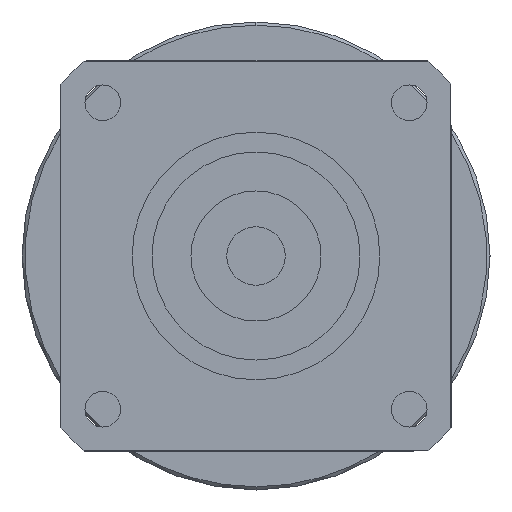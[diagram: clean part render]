
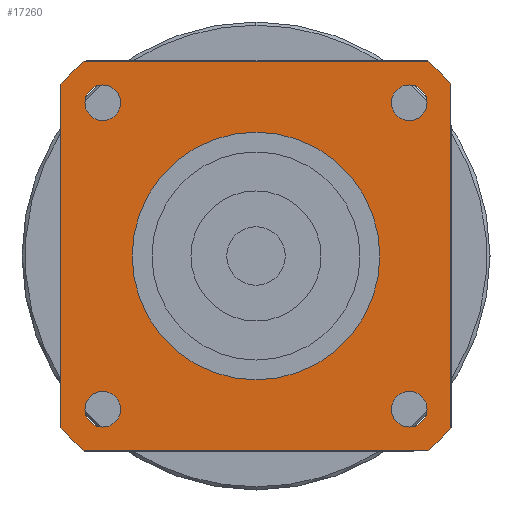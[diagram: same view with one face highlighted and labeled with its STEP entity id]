
A CAD part, left-side view. The second image highlights one B-rep face of the part: STEP entity #17260.
In plain terms, the highlighted planar face has unit normal (-1, 0, 0) as drawn and (0, 0, -1) by its records, which use the part's own axes.
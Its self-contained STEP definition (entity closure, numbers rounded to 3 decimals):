
#12210=CARTESIAN_POINT('',(-26.458,-30.,-91.));
#12220=VERTEX_POINT('',#12210);
#12450=CARTESIAN_POINT('',(26.458,-30.,-91.));
#12460=VERTEX_POINT('',#12450);
#12490=CARTESIAN_POINT('',(-30.,-30.,-91.));
#12500=DIRECTION('',(1.,0.,0.));
#12510=VECTOR('',#12500,1000.);
#12520=LINE('',#12490,#12510);
#12530=EDGE_CURVE('',#12220,#12460,#12520,.T.);
#12690=CARTESIAN_POINT('',(26.458,30.,-91.));
#12700=VERTEX_POINT('',#12690);
#12730=CARTESIAN_POINT('',(0.,0.,
-91.));
#12740=DIRECTION('',(0.,0.,1.));
#12750=DIRECTION('',(0.,-1.,0.));
#12760=AXIS2_PLACEMENT_3D('',#12730,#12740,#12750);
#12770=CIRCLE('',#12760,40.);
#12780=CARTESIAN_POINT('',(30.,26.458,-91.));
#12790=VERTEX_POINT('',#12780);
#12800=EDGE_CURVE('',#12790,#12700,#12770,.T.);
#15380=CARTESIAN_POINT('',(30.,-26.458,-91.));
#15390=VERTEX_POINT('',#15380);
#15420=CARTESIAN_POINT('',(0.,0.,
-91.));
#15430=DIRECTION('',(0.,0.,1.));
#15440=DIRECTION('',(0.,-1.,0.));
#15450=AXIS2_PLACEMENT_3D('',#15420,#15430,#15440);
#15460=CIRCLE('',#15450,40.);
#15470=EDGE_CURVE('',#12460,#15390,#15460,.T.);
#15610=CARTESIAN_POINT('',(20.821,23.571,-91.));
#15620=VERTEX_POINT('',#15610);
#15780=CARTESIAN_POINT('',(26.321,23.571,-91.));
#15790=VERTEX_POINT('',#15780);
#15820=CARTESIAN_POINT('',(23.571,23.571,-91.));
#15830=DIRECTION('',(0.,0.,-1.));
#15840=DIRECTION('',(0.,1.,0.));
#15850=AXIS2_PLACEMENT_3D('',#15820,#15830,#15840);
#15860=CIRCLE('',#15850,2.75);
#15870=CARTESIAN_POINT('',(23.571,26.321,-91.));
#15880=VERTEX_POINT('',#15870);
#15890=EDGE_CURVE('',#15880,#15790,#15860,.T.);
#15910=EDGE_CURVE('',#15620,#15880,#15860,.T.);
#15960=CARTESIAN_POINT('',(-30.,30.,-91.));
#15970=DIRECTION('',(0.,0.,1.));
#15980=DIRECTION('',(-1.,0.,0.));
#15990=AXIS2_PLACEMENT_3D('',#15960,#15970,#15980);
#16000=PLANE('',#15990);
#16010=CARTESIAN_POINT('',(23.571,-23.571,-91.));
#16020=DIRECTION('',(0.,0.,-1.));
#16030=DIRECTION('',(1.,0.,0.));
#16040=AXIS2_PLACEMENT_3D('',#16010,#16020,#16030);
#16050=CIRCLE('',#16040,2.75);
#16060=CARTESIAN_POINT('',(26.321,-23.571,-91.));
#16070=VERTEX_POINT('',#16060);
#16080=CARTESIAN_POINT('',(23.571,-26.321,-91.));
#16090=VERTEX_POINT('',#16080);
#16100=EDGE_CURVE('',#16070,#16090,#16050,.T.);
#16110=ORIENTED_EDGE('',*,*,#16100,.F.);
#16120=CARTESIAN_POINT('',(23.571,-20.821,-91.));
#16130=VERTEX_POINT('',#16120);
#16140=EDGE_CURVE('',#16090,#16130,#16050,.T.);
#16150=ORIENTED_EDGE('',*,*,#16140,.F.);
#16160=EDGE_CURVE('',#16130,#16070,#16050,.T.);
#16170=ORIENTED_EDGE('',*,*,#16160,.F.);
#16180=EDGE_LOOP('',(#16170,#16150,#16110));
#16190=FACE_BOUND('',#16180,.T.);
#16200=ORIENTED_EDGE('',*,*,#15890,.F.);
#16210=EDGE_CURVE('',#15790,#15620,#15860,.T.);
#16220=ORIENTED_EDGE('',*,*,#16210,.F.);
#16230=ORIENTED_EDGE('',*,*,#15910,.F.);
#16240=EDGE_LOOP('',(#16230,#16220,#16200));
#16250=FACE_BOUND('',#16240,.T.);
#16260=CARTESIAN_POINT('',(-23.571,23.571,-91.));
#16270=DIRECTION('',(0.,0.,-1.));
#16280=DIRECTION('',(-1.,0.,0.));
#16290=AXIS2_PLACEMENT_3D('',#16260,#16270,#16280);
#16300=CIRCLE('',#16290,2.75);
#16310=CARTESIAN_POINT('',(-26.321,23.571,-91.));
#16320=VERTEX_POINT('',#16310);
#16330=CARTESIAN_POINT('',(-23.571,26.321,-91.));
#16340=VERTEX_POINT('',#16330);
#16350=EDGE_CURVE('',#16320,#16340,#16300,.T.);
#16360=ORIENTED_EDGE('',*,*,#16350,.F.);
#16370=CARTESIAN_POINT('',(-23.571,20.821,-91.));
#16380=VERTEX_POINT('',#16370);
#16390=EDGE_CURVE('',#16340,#16380,#16300,.T.);
#16400=ORIENTED_EDGE('',*,*,#16390,.F.);
#16410=EDGE_CURVE('',#16380,#16320,#16300,.T.);
#16420=ORIENTED_EDGE('',*,*,#16410,.F.);
#16430=EDGE_LOOP('',(#16420,#16400,#16360));
#16440=FACE_BOUND('',#16430,.T.);
#16450=CARTESIAN_POINT('',(-23.571,-23.571,-91.));
#16460=DIRECTION('',(0.,0.,-1.));
#16470=DIRECTION('',(0.,-1.,0.));
#16480=AXIS2_PLACEMENT_3D('',#16450,#16460,#16470);
#16490=CIRCLE('',#16480,2.75);
#16500=CARTESIAN_POINT('',(-23.571,-26.321,-91.));
#16510=VERTEX_POINT('',#16500);
#16520=CARTESIAN_POINT('',(-26.321,-23.571,-91.));
#16530=VERTEX_POINT('',#16520);
#16540=EDGE_CURVE('',#16510,#16530,#16490,.T.);
#16550=ORIENTED_EDGE('',*,*,#16540,.F.);
#16560=CARTESIAN_POINT('',(-20.821,-23.571,-91.));
#16570=VERTEX_POINT('',#16560);
#16580=EDGE_CURVE('',#16530,#16570,#16490,.T.);
#16590=ORIENTED_EDGE('',*,*,#16580,.F.);
#16600=EDGE_CURVE('',#16570,#16510,#16490,.T.);
#16610=ORIENTED_EDGE('',*,*,#16600,.F.);
#16620=EDGE_LOOP('',(#16610,#16590,#16550));
#16630=FACE_BOUND('',#16620,.T.);
#16640=CARTESIAN_POINT('',(0.,0.,
-91.));
#16650=DIRECTION('',(0.,0.,1.));
#16660=DIRECTION('',(0.,-1.,0.));
#16670=AXIS2_PLACEMENT_3D('',#16640,#16650,#16660);
#16680=CIRCLE('',#16670,40.);
#16690=CARTESIAN_POINT('',(-30.,-26.458,-91.));
#16700=VERTEX_POINT('',#16690);
#16710=EDGE_CURVE('',#16700,#12220,#16680,.T.);
#16720=ORIENTED_EDGE('',*,*,#16710,.F.);
#16730=ORIENTED_EDGE('',*,*,#12530,.F.);
#16740=ORIENTED_EDGE('',*,*,#15470,.F.);
#16750=CARTESIAN_POINT('',(30.,-30.,-91.));
#16760=DIRECTION('',(0.,1.,0.));
#16770=VECTOR('',#16760,1000.);
#16780=LINE('',#16750,#16770);
#16790=EDGE_CURVE('',#15390,#12790,#16780,.T.);
#16800=ORIENTED_EDGE('',*,*,#16790,.F.);
#16810=ORIENTED_EDGE('',*,*,#12800,.F.);
#16820=CARTESIAN_POINT('',(30.,30.,-91.));
#16830=DIRECTION('',(-1.,0.,0.));
#16840=VECTOR('',#16830,1000.);
#16850=LINE('',#16820,#16840);
#16860=CARTESIAN_POINT('',(-26.458,30.,-91.));
#16870=VERTEX_POINT('',#16860);
#16880=EDGE_CURVE('',#12700,#16870,#16850,.T.);
#16890=ORIENTED_EDGE('',*,*,#16880,.F.);
#16900=CARTESIAN_POINT('',(0.,0.,
-91.));
#16910=DIRECTION('',(0.,0.,1.));
#16920=DIRECTION('',(0.,-1.,0.));
#16930=AXIS2_PLACEMENT_3D('',#16900,#16910,#16920);
#16940=CIRCLE('',#16930,40.);
#16950=CARTESIAN_POINT('',(-30.,26.458,-91.));
#16960=VERTEX_POINT('',#16950);
#16970=EDGE_CURVE('',#16870,#16960,#16940,.T.);
#16980=ORIENTED_EDGE('',*,*,#16970,.F.);
#16990=CARTESIAN_POINT('',(-30.,30.,-91.));
#17000=DIRECTION('',(0.,-1.,0.));
#17010=VECTOR('',#17000,1000.);
#17020=LINE('',#16990,#17010);
#17030=EDGE_CURVE('',#16960,#16700,#17020,.T.);
#17040=ORIENTED_EDGE('',*,*,#17030,.F.);
#17050=EDGE_LOOP('',(#17040,#16980,#16890,#16810,#16800,#16740,#16730,
#16720));
#17060=FACE_OUTER_BOUND('',#17050,.T.);
#17070=CARTESIAN_POINT('',(0.,0.,
-91.));
#17080=DIRECTION('',(0.,0.,1.));
#17090=DIRECTION('',(0.,-1.,0.));
#17100=AXIS2_PLACEMENT_3D('',#17070,#17080,#17090);
#17110=CIRCLE('',#17100,19.05);
#17120=CARTESIAN_POINT('',(19.05,0.,-91.));
#17130=VERTEX_POINT('',#17120);
#17140=CARTESIAN_POINT('',(-19.05,0.,-91.));
#17150=VERTEX_POINT('',#17140);
#17160=EDGE_CURVE('',#17130,#17150,#17110,.T.);
#17170=ORIENTED_EDGE('',*,*,#17160,.T.);
#17180=CARTESIAN_POINT('',(0.,-19.05,-91.));
#17190=VERTEX_POINT('',#17180);
#17200=EDGE_CURVE('',#17190,#17130,#17110,.T.);
#17210=ORIENTED_EDGE('',*,*,#17200,.T.);
#17220=EDGE_CURVE('',#17150,#17190,#17110,.T.);
#17230=ORIENTED_EDGE('',*,*,#17220,.T.);
#17240=EDGE_LOOP('',(#17230,#17210,#17170));
#17250=FACE_BOUND('',#17240,.T.);
#17260=ADVANCED_FACE('',(#16190,#16250,#16440,#16630,#17060,#17250),
#16000,.F.);
